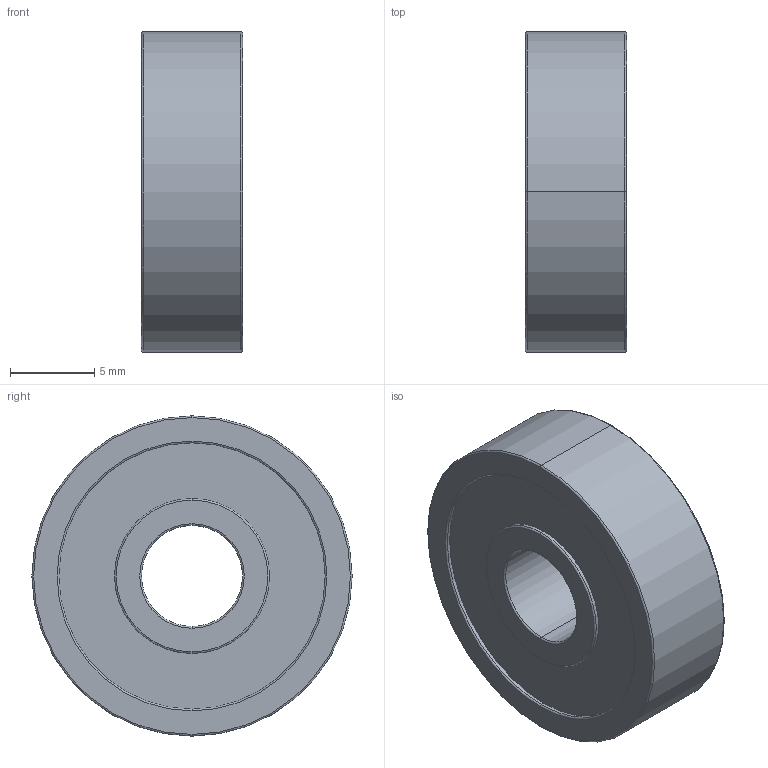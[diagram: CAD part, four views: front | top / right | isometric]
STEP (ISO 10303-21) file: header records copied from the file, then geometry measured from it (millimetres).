
FILE_DESCRIPTION (( 'STEP AP203' ), '1' );
FILE_NAME ('084.800.013.STEP', '2013-01-29T09:31:21', ( 'Alusic' ), ( 'Alusic' ), 'SwSTEP 2.0', 'SolidWorks 2011', '' );
FILE_SCHEMA (( 'CONFIG_CONTROL_DESIGN' ));
Length unit declared in the file: millimetre
Products named in the file (1): 084.800.013
Bounding box: 6 x 19 x 19 mm (x, y, z)
Volume: 1453.1 mm3; surface area: 1015.4 mm2
Topology: 1 solids, 1 shells, 34 faces, 68 edges, 40 vertices
Faces by surface type: torus 16, cylinder 12, plane 6
Entity records: 981 total; most frequent: DIRECTION 194, CARTESIAN_POINT 143, ORIENTED_EDGE 136, AXIS2_PLACEMENT_3D 91, EDGE_CURVE 68, CIRCLE 56, VERTEX_POINT 40, EDGE_LOOP 40
